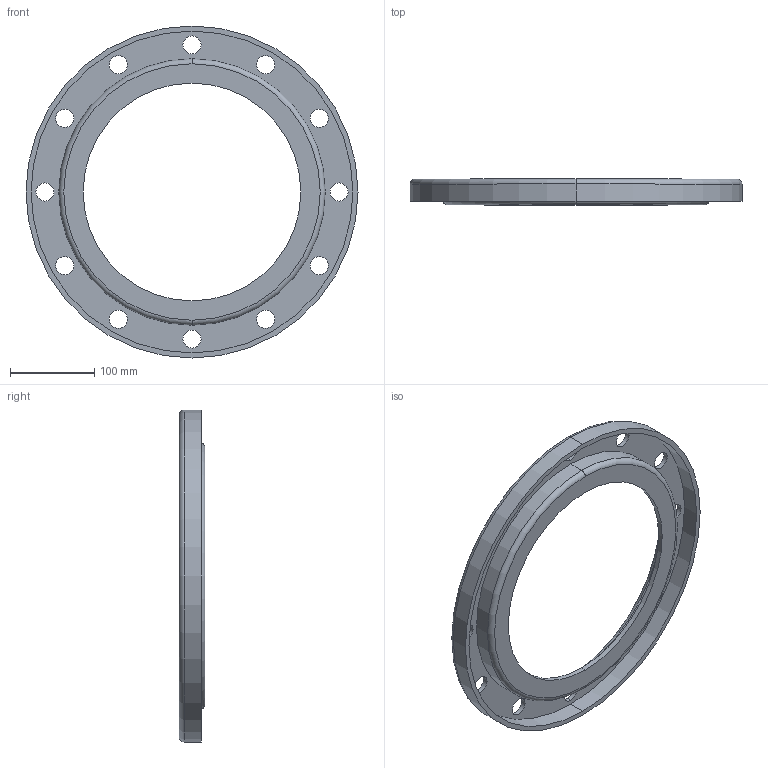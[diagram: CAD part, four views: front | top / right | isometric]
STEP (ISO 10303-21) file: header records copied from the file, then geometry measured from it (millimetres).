
FILE_DESCRIPTION (( 'STEP AP203' ), '1' );
FILE_NAME ('3D_R350_PN10_DN254_17677330.STEP', '2024-07-04T09:41:33', ( '' ), ( '' ), 'SwSTEP 2.0', 'SolidWorks 2024', '' );
FILE_SCHEMA (( 'CONFIG_CONTROL_DESIGN' ));
Length unit declared in the file: millimetre
Products named in the file (1): 3D_R350_PN10_DN254_17677330
Bounding box: 395 x 30.5 x 395 mm (x, y, z)
Volume: 661108.3 mm3; surface area: 237522.5 mm2
Topology: 1 solids, 1 shells, 45 faces, 114 edges, 74 vertices
Faces by surface type: cylinder 34, torus 6, plane 5
Entity records: 1529 total; most frequent: DIRECTION 286, CARTESIAN_POINT 234, ORIENTED_EDGE 228, AXIS2_PLACEMENT_3D 126, EDGE_CURVE 114, CIRCLE 80, VERTEX_POINT 74, EDGE_LOOP 74
